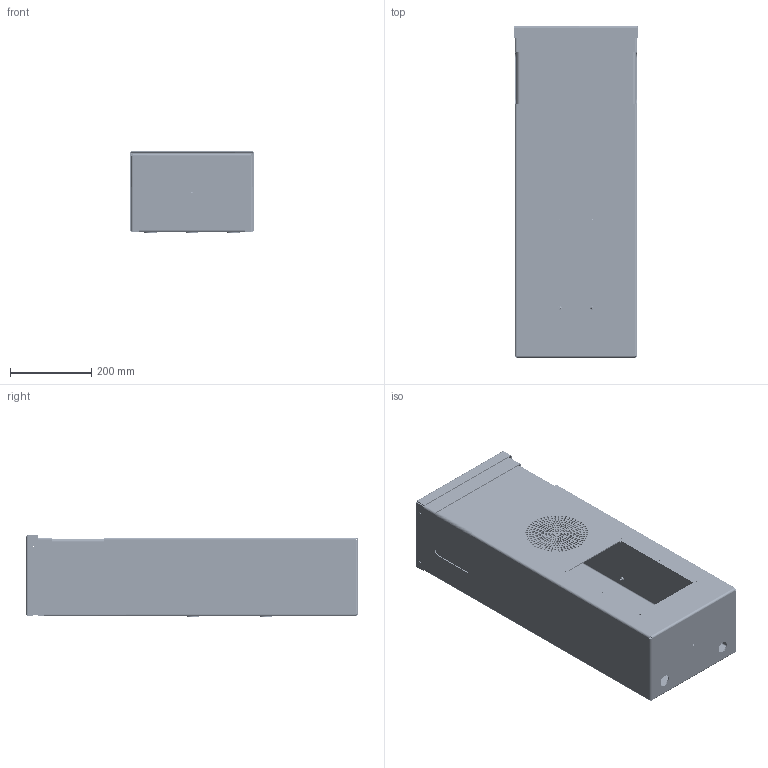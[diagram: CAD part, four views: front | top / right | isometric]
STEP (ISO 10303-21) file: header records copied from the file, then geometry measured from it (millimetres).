
FILE_DESCRIPTION (( 'STEP AP203' ), '1' );
FILE_NAME ('cad-113_CB2-e_PAS_dwg.STEP', '2019-05-03T01:38:54', ( '' ), ( '' ), 'SwSTEP 2.0', 'SolidWorks 2018', '' );
FILE_SCHEMA (( 'CONFIG_CONTROL_DESIGN' ));
Length unit declared in the file: inch
Products named in the file (1): cad-113_CB2-e_PAS_dwg
Bounding box: 307.09 x 817.98 x 201.78 mm (x, y, z)
Volume: 3626399.4 mm3; surface area: 2465711.2 mm2
Topology: 55 solids, 55 shells, 4301 faces, 11908 edges, 7784 vertices
Faces by surface type: plane 1934, cylinder 1700, cone 501, bspline 166
Entity records: 151508 total; most frequent: CARTESIAN_POINT 38973, ORIENTED_EDGE 23772, DIRECTION 23399, EDGE_CURVE 11886, AXIS2_PLACEMENT_3D 8496, VERTEX_POINT 7784, VECTOR 6407, LINE 6407
